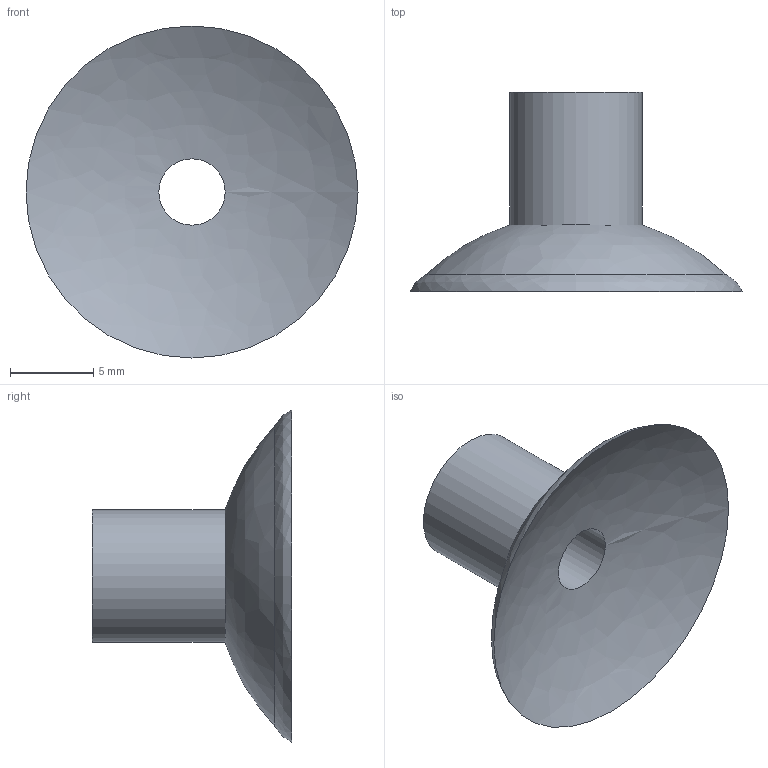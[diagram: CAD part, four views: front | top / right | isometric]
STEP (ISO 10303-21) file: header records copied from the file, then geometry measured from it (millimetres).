
FILE_DESCRIPTION (( 'STEP AP214' ), '1' );
FILE_NAME ('012010.STEP', '2020-08-20T15:42:34', ( '' ), ( '' ), 'SwSTEP 2.0', 'SolidWorks 2018', '' );
FILE_SCHEMA (( 'AUTOMOTIVE_DESIGN' ));
Length unit declared in the file: millimetre
Products named in the file (1): 012010
Bounding box: 20 x 12 x 20 mm (x, y, z)
Volume: 636 mm3; surface area: 1014.4 mm2
Topology: 1 solids, 1 shells, 6 faces, 11 edges, 6 vertices
Faces by surface type: bspline 3, cylinder 2, plane 1
Full cylindrical faces by diameter (mm): 4 x1, 8 x1
Entity records: 228 total; most frequent: CARTESIAN_POINT 97, DIRECTION 20, ORIENTED_EDGE 12, EDGE_LOOP 12, FACE_OUTER_BOUND 11, AXIS2_PLACEMENT_3D 10, ADVANCED_FACE 6, VERTEX_POINT 6
